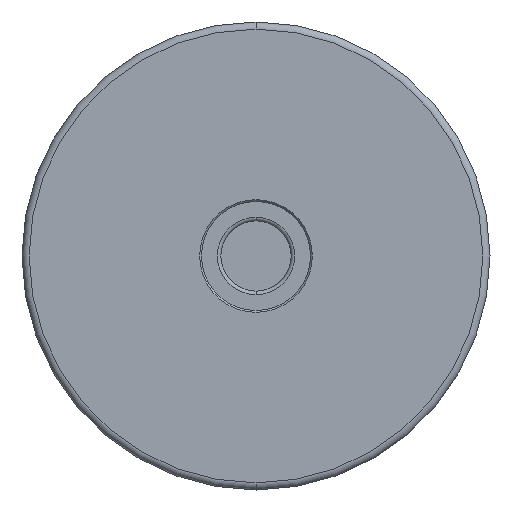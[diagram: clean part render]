
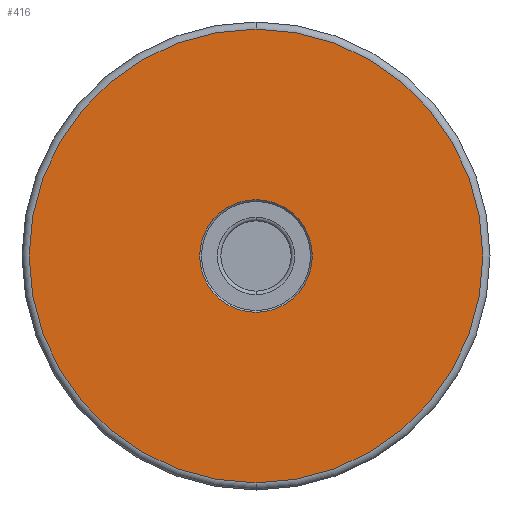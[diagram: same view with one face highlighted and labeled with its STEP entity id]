
A CAD part, front view. The second image highlights one B-rep face of the part: STEP entity #416.
In plain terms, the highlighted planar face has unit normal (0, -1, 0).
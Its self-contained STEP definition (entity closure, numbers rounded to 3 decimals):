
#72 = DIRECTION ( 'NONE',  ( 0., 1., 0. ) ) ;
#112 = AXIS2_PLACEMENT_3D ( 'NONE', #791, #5380, #4802 ) ;
#416 = ADVANCED_FACE ( 'NONE', ( #4902, #6416 ), #2907, .T. ) ;
#443 = DIRECTION ( 'NONE',  ( 0., -1., 0. ) ) ;
#466 = CARTESIAN_POINT ( 'NONE',  ( 0., 0., -15.65 ) ) ;
#720 = ORIENTED_EDGE ( 'NONE', *, *, #770, .F. ) ;
#770 = EDGE_CURVE ( 'NONE', #5884, #3388, #4397, .T. ) ;
#791 = CARTESIAN_POINT ( 'NONE',  ( 0., 0., 0. ) ) ;
#983 = EDGE_LOOP ( 'NONE', ( #5827, #720 ) ) ;
#1301 = CIRCLE ( 'NONE', #4263, 63. ) ;
#1540 = EDGE_CURVE ( 'NONE', #3388, #5884, #1301, .T. ) ;
#1804 = EDGE_CURVE ( 'NONE', #3360, #4994, #3331, .T. ) ;
#2674 = CARTESIAN_POINT ( 'NONE',  ( 0., 0., -63. ) ) ;
#2791 = EDGE_CURVE ( 'NONE', #4994, #3360, #5810, .T. ) ;
#2907 = PLANE ( 'NONE',  #3054 ) ;
#3054 = AXIS2_PLACEMENT_3D ( 'NONE', #5909, #443, #3366 ) ;
#3331 = CIRCLE ( 'NONE', #112, 15.65 ) ;
#3360 = VERTEX_POINT ( 'NONE', #5975 ) ;
#3366 = DIRECTION ( 'NONE',  ( 0., 0., -1. ) ) ;
#3388 = VERTEX_POINT ( 'NONE', #6031 ) ;
#3389 = ORIENTED_EDGE ( 'NONE', *, *, #1804, .T. ) ;
#4101 = ORIENTED_EDGE ( 'NONE', *, *, #2791, .T. ) ;
#4263 = AXIS2_PLACEMENT_3D ( 'NONE', #5420, #72, #4569 ) ;
#4318 = DIRECTION ( 'NONE',  ( 0., 0., 1. ) ) ;
#4397 = CIRCLE ( 'NONE', #4828, 63. ) ;
#4569 = DIRECTION ( 'NONE',  ( 0., 0., 1. ) ) ;
#4802 = DIRECTION ( 'NONE',  ( 0., 0., 1. ) ) ;
#4828 = AXIS2_PLACEMENT_3D ( 'NONE', #5325, #5933, #4318 ) ;
#4902 = FACE_BOUND ( 'NONE', #5863, .T. ) ;
#4994 = VERTEX_POINT ( 'NONE', #466 ) ;
#5100 = DIRECTION ( 'NONE',  ( 0., 0., 1. ) ) ;
#5165 = DIRECTION ( 'NONE',  ( 0., 1., 0. ) ) ;
#5325 = CARTESIAN_POINT ( 'NONE',  ( 0., 0., 0. ) ) ;
#5380 = DIRECTION ( 'NONE',  ( 0., 1., 0. ) ) ;
#5420 = CARTESIAN_POINT ( 'NONE',  ( 0., 0., 0. ) ) ;
#5714 = CARTESIAN_POINT ( 'NONE',  ( 0., 0., 0. ) ) ;
#5810 = CIRCLE ( 'NONE', #6443, 15.65 ) ;
#5827 = ORIENTED_EDGE ( 'NONE', *, *, #1540, .F. ) ;
#5863 = EDGE_LOOP ( 'NONE', ( #4101, #3389 ) ) ;
#5884 = VERTEX_POINT ( 'NONE', #2674 ) ;
#5909 = CARTESIAN_POINT ( 'NONE',  ( -15.65, 0., 0. ) ) ;
#5933 = DIRECTION ( 'NONE',  ( 0., 1., 0. ) ) ;
#5975 = CARTESIAN_POINT ( 'NONE',  ( 0., 0., 15.65 ) ) ;
#6031 = CARTESIAN_POINT ( 'NONE',  ( 0., 0., 63. ) ) ;
#6416 = FACE_OUTER_BOUND ( 'NONE', #983, .T. ) ;
#6443 = AXIS2_PLACEMENT_3D ( 'NONE', #5714, #5165, #5100 ) ;
